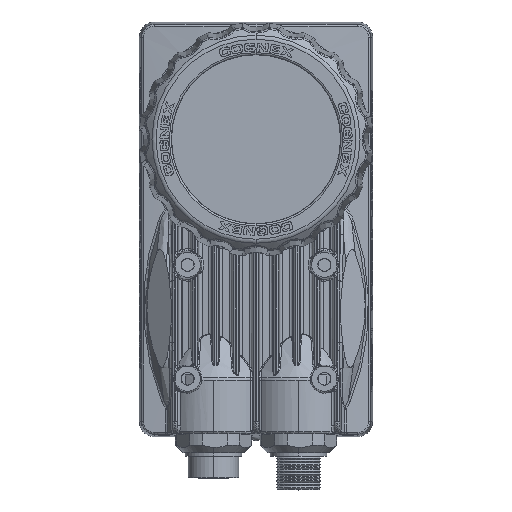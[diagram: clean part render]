
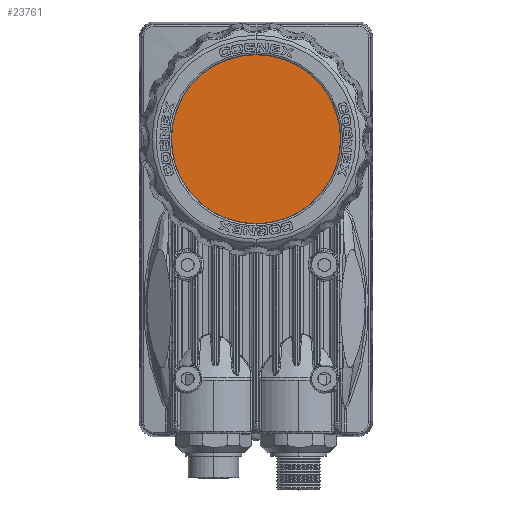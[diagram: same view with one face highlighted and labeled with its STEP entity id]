
A CAD part, top view. The second image highlights one B-rep face of the part: STEP entity #23761.
In plain terms, the highlighted planar face has unit normal (0, 0, 1).
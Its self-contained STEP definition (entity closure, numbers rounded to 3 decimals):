
#23761 = ADVANCED_FACE ( 'NONE', ( #233962 ), #234115, .F. ) ;
#23766 = EDGE_LOOP ( 'NONE', ( #23768, #23772 ) ) ;
#23768 = ORIENTED_EDGE ( 'NONE', *, *, #27689, .F. ) ;
#23772 = ORIENTED_EDGE ( 'NONE', *, *, #33330, .F. ) ;
#27626 = VERTEX_POINT ( 'NONE', #351312 ) ;
#27689 = EDGE_CURVE ( 'NONE', #27626, #27757, #351558, .T. ) ;
#27757 = VERTEX_POINT ( 'NONE', #351669 ) ;
#33330 = EDGE_CURVE ( 'NONE', #27757, #27626, #238408, .T. ) ;
#233962 = FACE_OUTER_BOUND ( 'NONE', #23766, .T. ) ;
#234099 = DIRECTION ( 'NONE',  ( 0., 1., 0. ) ) ;
#234102 = DIRECTION ( 'NONE',  ( 0., 0., -1. ) ) ;
#234105 = CARTESIAN_POINT ( 'NONE',  ( 0., 23.612, 74.13 ) ) ;
#234108 = AXIS2_PLACEMENT_3D ( 'NONE', #234105, #234102, #234099 ) ;
#234115 = PLANE ( 'NONE',  #234108 ) ;
#238399 = DIRECTION ( 'NONE',  ( 0., 1., 0. ) ) ;
#238402 = DIRECTION ( 'NONE',  ( 0., 0., -1. ) ) ;
#238404 = CARTESIAN_POINT ( 'NONE',  ( 0., 23.612, 74.13 ) ) ;
#238406 = AXIS2_PLACEMENT_3D ( 'NONE', #238404, #238402, #238399 ) ;
#238408 = CIRCLE ( 'NONE', #238406, 22.25 ) ;
#351312 = CARTESIAN_POINT ( 'NONE',  ( 0., 1.362, 74.13 ) ) ;
#351551 = DIRECTION ( 'NONE',  ( 0., 1., 0. ) ) ;
#351553 = DIRECTION ( 'NONE',  ( 0., 0., -1. ) ) ;
#351555 = CARTESIAN_POINT ( 'NONE',  ( 0., 23.612, 74.13 ) ) ;
#351556 = AXIS2_PLACEMENT_3D ( 'NONE', #351555, #351553, #351551 ) ;
#351558 = CIRCLE ( 'NONE', #351556, 22.25 ) ;
#351669 = CARTESIAN_POINT ( 'NONE',  ( 0., 45.862, 74.13 ) ) ;
